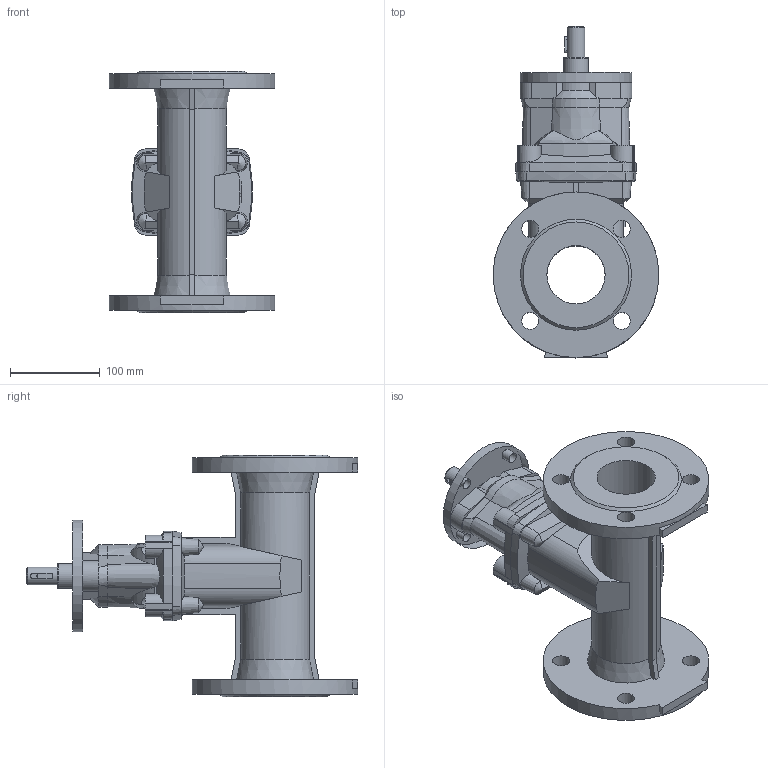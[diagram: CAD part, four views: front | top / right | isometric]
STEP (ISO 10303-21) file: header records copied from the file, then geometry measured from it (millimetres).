
FILE_DESCRIPTION (( 'STEP AP203' ), '1' );
FILE_NAME ('O_15_72_DN065_X1X_AA0.step', '2017-03-10T08:49:31', ( 'Windows User' ), ( 'AVK' ), 'SwSTEP 2.0', 'SolidWorks 2012', '' );
FILE_SCHEMA (( 'CONFIG_CONTROL_DESIGN' ));
Length unit declared in the file: millimetre
Products named in the file (1): O_15_72_DN065_X1X_AA0
Bounding box: 185 x 370.5 x 270 mm (x, y, z)
Volume: 2743658.7 mm3; surface area: 332160.3 mm2
Topology: 1 solids, 1 shells, 262 faces, 713 edges, 460 vertices
Faces by surface type: plane 129, cylinder 63, cone 62, torus 6, bspline 2
Full cylindrical faces by diameter (mm): 11.5 x4, 19 x8, 20 x1, 28 x1, 65 x1, 125 x1, 185 x2
Entity records: 9192 total; most frequent: CARTESIAN_POINT 2960, ORIENTED_EDGE 1336, DIRECTION 1187, EDGE_CURVE 668, AXIS2_PLACEMENT_3D 464, VERTEX_POINT 441, EDGE_LOOP 321, FACE_OUTER_BOUND 280
